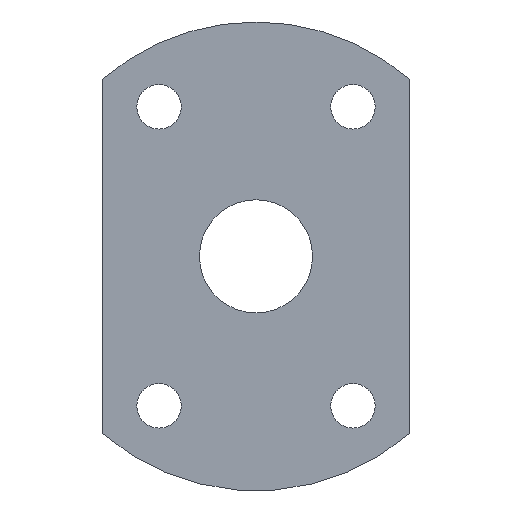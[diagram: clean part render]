
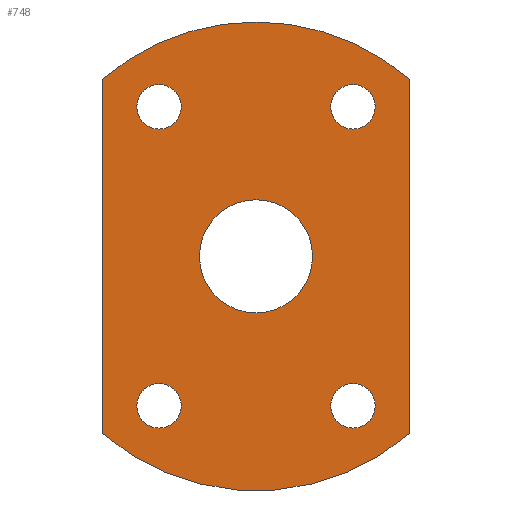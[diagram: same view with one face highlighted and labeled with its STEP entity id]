
A CAD part, front view. The second image highlights one B-rep face of the part: STEP entity #748.
In plain terms, the highlighted planar face has unit normal (0, -1, 0).
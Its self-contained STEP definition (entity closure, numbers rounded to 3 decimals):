
#2 = DIRECTION ( 'NONE',  ( 0., -1., 0. ) ) ;
#31 = DIRECTION ( 'NONE',  ( 0., 1., 0. ) ) ;
#32 = DIRECTION ( 'NONE',  ( 0., 0., -1. ) ) ;
#35 = CARTESIAN_POINT ( 'NONE',  ( -12., -34.4, -15.75 ) ) ;
#41 = AXIS2_PLACEMENT_3D ( 'NONE', #1406, #511, #113 ) ;
#53 = CARTESIAN_POINT ( 'NONE',  ( 12., -34.4, 21.25 ) ) ;
#56 = EDGE_CURVE ( 'NONE', #1327, #127, #269, .T. ) ;
#74 = CARTESIAN_POINT ( 'NONE',  ( 12., -34.4, 18.5 ) ) ;
#89 = VERTEX_POINT ( 'NONE', #490 ) ;
#93 = DIRECTION ( 'NONE',  ( 0., 0., 1. ) ) ;
#95 = EDGE_CURVE ( 'NONE', #704, #829, #924, .T. ) ;
#113 = DIRECTION ( 'NONE',  ( 0., 0., -1. ) ) ;
#115 = VERTEX_POINT ( 'NONE', #1065 ) ;
#127 = VERTEX_POINT ( 'NONE', #35 ) ;
#151 = AXIS2_PLACEMENT_3D ( 'NONE', #288, #1357, #857 ) ;
#152 = CARTESIAN_POINT ( 'NONE',  ( 0., -34.4, 7. ) ) ;
#161 = CARTESIAN_POINT ( 'NONE',  ( -12., -34.4, -21.25 ) ) ;
#163 = ORIENTED_EDGE ( 'NONE', *, *, #1488, .T. ) ;
#166 = ORIENTED_EDGE ( 'NONE', *, *, #1020, .T. ) ;
#191 = EDGE_CURVE ( 'NONE', #89, #1323, #468, .T. ) ;
#199 = DIRECTION ( 'NONE',  ( 0., -1., 0. ) ) ;
#222 = VERTEX_POINT ( 'NONE', #1107 ) ;
#225 = DIRECTION ( 'NONE',  ( 0., 0., 1. ) ) ;
#230 = CARTESIAN_POINT ( 'NONE',  ( 12., -34.4, -21.25 ) ) ;
#247 = CIRCLE ( 'NONE', #1005, 2.75 ) ;
#253 = EDGE_CURVE ( 'NONE', #127, #1327, #1002, .T. ) ;
#259 = VERTEX_POINT ( 'NONE', #878 ) ;
#268 = CARTESIAN_POINT ( 'NONE',  ( -12., -34.4, 15.75 ) ) ;
#269 = CIRCLE ( 'NONE', #938, 2.75 ) ;
#288 = CARTESIAN_POINT ( 'NONE',  ( -12., -34.4, 18.5 ) ) ;
#293 = DIRECTION ( 'NONE',  ( 0., 1., 0. ) ) ;
#309 = ORIENTED_EDGE ( 'NONE', *, *, #191, .T. ) ;
#311 = FACE_OUTER_BOUND ( 'NONE', #939, .T. ) ;
#313 = ORIENTED_EDGE ( 'NONE', *, *, #540, .F. ) ;
#314 = CARTESIAN_POINT ( 'NONE',  ( -12., -34.4, 18.5 ) ) ;
#336 = CIRCLE ( 'NONE', #1457, 29. ) ;
#355 = VERTEX_POINT ( 'NONE', #53 ) ;
#362 = CARTESIAN_POINT ( 'NONE',  ( 0., -34.4, 0. ) ) ;
#393 = DIRECTION ( 'NONE',  ( 0., 0., -1. ) ) ;
#397 = AXIS2_PLACEMENT_3D ( 'NONE', #1410, #669, #437 ) ;
#401 = ORIENTED_EDGE ( 'NONE', *, *, #1116, .T. ) ;
#404 = DIRECTION ( 'NONE',  ( 0., -1., 0. ) ) ;
#422 = EDGE_LOOP ( 'NONE', ( #1395, #988 ) ) ;
#431 = CIRCLE ( 'NONE', #1015, 29. ) ;
#437 = DIRECTION ( 'NONE',  ( 0., 0., 1. ) ) ;
#458 = AXIS2_PLACEMENT_3D ( 'NONE', #74, #31, #93 ) ;
#468 = CIRCLE ( 'NONE', #41, 29. ) ;
#477 = CIRCLE ( 'NONE', #151, 2.75 ) ;
#482 = EDGE_LOOP ( 'NONE', ( #1302, #1026 ) ) ;
#490 = CARTESIAN_POINT ( 'NONE',  ( 19., -34.4, 21.909 ) ) ;
#494 = AXIS2_PLACEMENT_3D ( 'NONE', #695, #1152, #225 ) ;
#511 = DIRECTION ( 'NONE',  ( 0., -1., 0. ) ) ;
#526 = DIRECTION ( 'NONE',  ( 0., 0., -1. ) ) ;
#540 = EDGE_CURVE ( 'NONE', #829, #704, #1146, .T. ) ;
#544 = DIRECTION ( 'NONE',  ( 0., 0., 1. ) ) ;
#551 = CARTESIAN_POINT ( 'NONE',  ( 0., -34.4, 29. ) ) ;
#556 = CARTESIAN_POINT ( 'NONE',  ( 12., -34.4, 18.5 ) ) ;
#584 = CARTESIAN_POINT ( 'NONE',  ( 0., -34.4, -7. ) ) ;
#586 = EDGE_CURVE ( 'NONE', #1167, #355, #1067, .T. ) ;
#605 = EDGE_LOOP ( 'NONE', ( #1318, #1039 ) ) ;
#636 = DIRECTION ( 'NONE',  ( 0., -1., 0. ) ) ;
#639 = LINE ( 'NONE', #888, #1289 ) ;
#656 = AXIS2_PLACEMENT_3D ( 'NONE', #1423, #1401, #526 ) ;
#666 = CIRCLE ( 'NONE', #397, 2.75 ) ;
#669 = DIRECTION ( 'NONE',  ( 0., 1., 0. ) ) ;
#686 = CIRCLE ( 'NONE', #494, 2.75 ) ;
#694 = LINE ( 'NONE', #983, #766 ) ;
#695 = CARTESIAN_POINT ( 'NONE',  ( 12., -34.4, -18.5 ) ) ;
#702 = EDGE_CURVE ( 'NONE', #949, #882, #477, .T. ) ;
#704 = VERTEX_POINT ( 'NONE', #152 ) ;
#722 = CARTESIAN_POINT ( 'NONE',  ( 0., -34.4, 0. ) ) ;
#723 = DIRECTION ( 'NONE',  ( 0., 1., 0. ) ) ;
#746 = CIRCLE ( 'NONE', #842, 2.75 ) ;
#748 = ADVANCED_FACE ( 'NONE', ( #752, #1267, #1313, #1449, #1016, #311 ), #812, .T. ) ;
#752 = FACE_BOUND ( 'NONE', #422, .T. ) ;
#766 = VECTOR ( 'NONE', #884, 1000. ) ;
#801 = CARTESIAN_POINT ( 'NONE',  ( 19., -34.4, -21.909 ) ) ;
#807 = EDGE_LOOP ( 'NONE', ( #1407, #166 ) ) ;
#812 = PLANE ( 'NONE',  #1029 ) ;
#829 = VERTEX_POINT ( 'NONE', #584 ) ;
#842 = AXIS2_PLACEMENT_3D ( 'NONE', #556, #723, #1045 ) ;
#857 = DIRECTION ( 'NONE',  ( 0., 0., 1. ) ) ;
#868 = ORIENTED_EDGE ( 'NONE', *, *, #1450, .T. ) ;
#878 = CARTESIAN_POINT ( 'NONE',  ( -19., -34.4, -21.909 ) ) ;
#882 = VERTEX_POINT ( 'NONE', #933 ) ;
#884 = DIRECTION ( 'NONE',  ( 0., 0., 1. ) ) ;
#888 = CARTESIAN_POINT ( 'NONE',  ( -19., -34.4, -21.909 ) ) ;
#894 = CARTESIAN_POINT ( 'NONE',  ( -12., -34.4, -18.5 ) ) ;
#924 = CIRCLE ( 'NONE', #1195, 7. ) ;
#931 = DIRECTION ( 'NONE',  ( 0., 0., 1. ) ) ;
#933 = CARTESIAN_POINT ( 'NONE',  ( -12., -34.4, 21.25 ) ) ;
#934 = DIRECTION ( 'NONE',  ( 0., 1., 0. ) ) ;
#938 = AXIS2_PLACEMENT_3D ( 'NONE', #894, #1451, #1128 ) ;
#939 = EDGE_LOOP ( 'NONE', ( #163, #401, #868, #309, #1013 ) ) ;
#949 = VERTEX_POINT ( 'NONE', #268 ) ;
#950 = EDGE_CURVE ( 'NONE', #115, #1171, #666, .T. ) ;
#983 = CARTESIAN_POINT ( 'NONE',  ( 19., -34.4, -21.909 ) ) ;
#988 = ORIENTED_EDGE ( 'NONE', *, *, #586, .T. ) ;
#1002 = CIRCLE ( 'NONE', #1304, 2.75 ) ;
#1005 = AXIS2_PLACEMENT_3D ( 'NONE', #314, #293, #931 ) ;
#1010 = EDGE_CURVE ( 'NONE', #1323, #222, #431, .T. ) ;
#1013 = ORIENTED_EDGE ( 'NONE', *, *, #1010, .T. ) ;
#1015 = AXIS2_PLACEMENT_3D ( 'NONE', #1135, #2, #1489 ) ;
#1016 = FACE_BOUND ( 'NONE', #1190, .T. ) ;
#1020 = EDGE_CURVE ( 'NONE', #1171, #115, #686, .T. ) ;
#1026 = ORIENTED_EDGE ( 'NONE', *, *, #56, .T. ) ;
#1029 = AXIS2_PLACEMENT_3D ( 'NONE', #362, #199, #1420 ) ;
#1039 = ORIENTED_EDGE ( 'NONE', *, *, #702, .T. ) ;
#1045 = DIRECTION ( 'NONE',  ( 0., 0., 1. ) ) ;
#1053 = EDGE_CURVE ( 'NONE', #355, #1167, #746, .T. ) ;
#1060 = VERTEX_POINT ( 'NONE', #801 ) ;
#1065 = CARTESIAN_POINT ( 'NONE',  ( 12., -34.4, -15.75 ) ) ;
#1067 = CIRCLE ( 'NONE', #458, 2.75 ) ;
#1107 = CARTESIAN_POINT ( 'NONE',  ( -19., -34.4, 21.909 ) ) ;
#1116 = EDGE_CURVE ( 'NONE', #259, #1060, #336, .T. ) ;
#1128 = DIRECTION ( 'NONE',  ( 0., 0., 1. ) ) ;
#1135 = CARTESIAN_POINT ( 'NONE',  ( 0., -34.4, 0. ) ) ;
#1141 = CARTESIAN_POINT ( 'NONE',  ( 12., -34.4, 15.75 ) ) ;
#1146 = CIRCLE ( 'NONE', #656, 7. ) ;
#1152 = DIRECTION ( 'NONE',  ( 0., 1., 0. ) ) ;
#1167 = VERTEX_POINT ( 'NONE', #1141 ) ;
#1171 = VERTEX_POINT ( 'NONE', #230 ) ;
#1190 = EDGE_LOOP ( 'NONE', ( #313, #1454 ) ) ;
#1195 = AXIS2_PLACEMENT_3D ( 'NONE', #722, #404, #393 ) ;
#1202 = DIRECTION ( 'NONE',  ( 0., 0., -1. ) ) ;
#1214 = CARTESIAN_POINT ( 'NONE',  ( -12., -34.4, -18.5 ) ) ;
#1252 = CARTESIAN_POINT ( 'NONE',  ( 0., -34.4, 0. ) ) ;
#1255 = EDGE_CURVE ( 'NONE', #882, #949, #247, .T. ) ;
#1267 = FACE_BOUND ( 'NONE', #482, .T. ) ;
#1289 = VECTOR ( 'NONE', #32, 1000. ) ;
#1302 = ORIENTED_EDGE ( 'NONE', *, *, #253, .T. ) ;
#1304 = AXIS2_PLACEMENT_3D ( 'NONE', #1214, #934, #544 ) ;
#1313 = FACE_BOUND ( 'NONE', #605, .T. ) ;
#1318 = ORIENTED_EDGE ( 'NONE', *, *, #1255, .T. ) ;
#1323 = VERTEX_POINT ( 'NONE', #551 ) ;
#1327 = VERTEX_POINT ( 'NONE', #161 ) ;
#1357 = DIRECTION ( 'NONE',  ( 0., 1., 0. ) ) ;
#1395 = ORIENTED_EDGE ( 'NONE', *, *, #1053, .T. ) ;
#1401 = DIRECTION ( 'NONE',  ( 0., -1., 0. ) ) ;
#1406 = CARTESIAN_POINT ( 'NONE',  ( 0., -34.4, 0. ) ) ;
#1407 = ORIENTED_EDGE ( 'NONE', *, *, #950, .T. ) ;
#1410 = CARTESIAN_POINT ( 'NONE',  ( 12., -34.4, -18.5 ) ) ;
#1420 = DIRECTION ( 'NONE',  ( 0., 0., -1. ) ) ;
#1423 = CARTESIAN_POINT ( 'NONE',  ( 0., -34.4, 0. ) ) ;
#1449 = FACE_BOUND ( 'NONE', #807, .T. ) ;
#1450 = EDGE_CURVE ( 'NONE', #1060, #89, #694, .T. ) ;
#1451 = DIRECTION ( 'NONE',  ( 0., 1., 0. ) ) ;
#1454 = ORIENTED_EDGE ( 'NONE', *, *, #95, .F. ) ;
#1457 = AXIS2_PLACEMENT_3D ( 'NONE', #1252, #636, #1202 ) ;
#1488 = EDGE_CURVE ( 'NONE', #222, #259, #639, .T. ) ;
#1489 = DIRECTION ( 'NONE',  ( 0., 0., -1. ) ) ;
